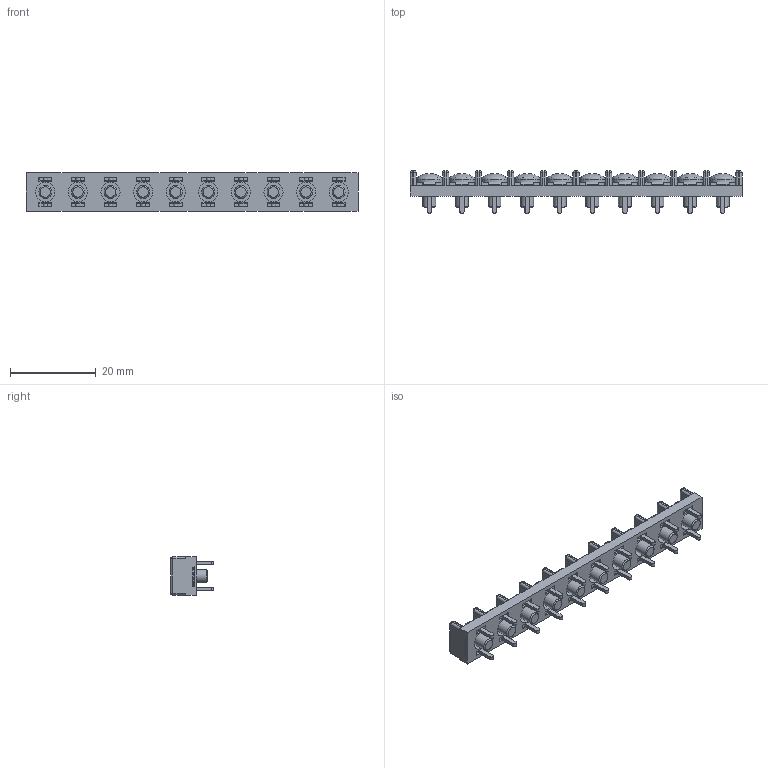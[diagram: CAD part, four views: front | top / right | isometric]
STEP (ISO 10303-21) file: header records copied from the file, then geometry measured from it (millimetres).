
FILE_DESCRIPTION(/* description */ ('Alibre Inc.'),/* implementation_level */ '2;1');
FILE_NAME(/* name */ 'export0',/* time_stamp */ '2015-11-28T15:44:56+09:00',/* author */ (''),/* organization */ (''),/* preprocessor_version */ 'ST-DEVELOPER v14',/* originating_system */ 'Alibre',/* authorisation */ '');
FILE_SCHEMA (('CONFIG_CONTROL_DESIGN'));
Length unit declared in the file: centimetre
Products named in the file (1): ID_1
Bounding box: 77.62 x 10 x 9 mm (x, y, z)
Volume: 2890.2 mm3; surface area: 5315.4 mm2
Topology: 1 solids, 145 shells, 2760 faces, 7102 edges, 4648 vertices
Faces by surface type: plane 1958, bspline 520, cylinder 168, sphere 54, cone 50, torus 10
Full cylindrical faces by diameter (mm): 3 x20, 4.5 x10, 6.1 x10
Entity records: 79873 total; most frequent: CARTESIAN_POINT 19133, ORIENTED_EDGE 13956, DIRECTION 8724, EDGE_CURVE 6978, VECTOR 5220, LINE 5220, VERTEX_POINT 4628, EDGE_LOOP 2992
